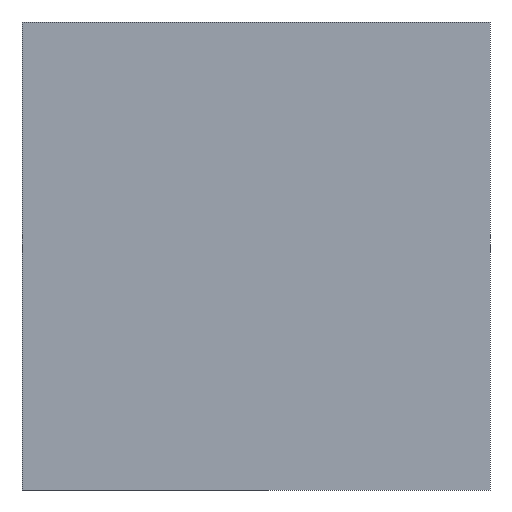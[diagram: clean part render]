
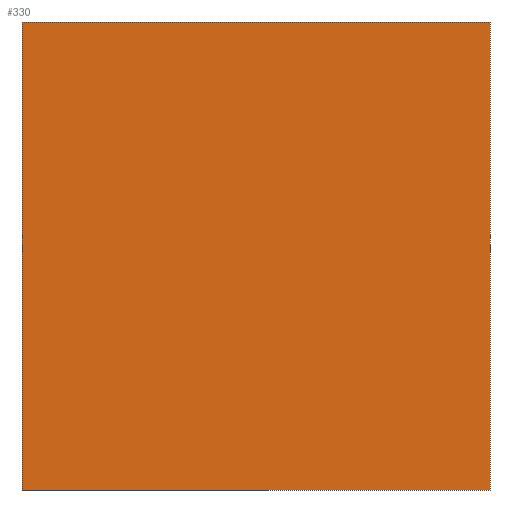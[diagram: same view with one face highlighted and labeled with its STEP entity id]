
A CAD part, left-side view. The second image highlights one B-rep face of the part: STEP entity #330.
In plain terms, the highlighted planar face has unit normal (-1, 0, 0).
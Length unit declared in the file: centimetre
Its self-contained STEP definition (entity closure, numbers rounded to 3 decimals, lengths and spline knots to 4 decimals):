
#9 = CARTESIAN_POINT ( 'NONE',  ( 0., 1000., 1000. ) ) ;
#28 = CARTESIAN_POINT ( 'NONE',  ( 0., 1000., 0. ) ) ;
#32 = VECTOR ( 'NONE', #407, 100. ) ;
#77 = EDGE_CURVE ( 'NONE', #295, #82, #481, .T. ) ;
#81 = CARTESIAN_POINT ( 'NONE',  ( 0., 0., 1000. ) ) ;
#82 = VERTEX_POINT ( 'NONE', #28 ) ;
#96 = DIRECTION ( 'NONE',  ( 0., -1., 0. ) ) ;
#104 = AXIS2_PLACEMENT_3D ( 'NONE', #200, #237, #421 ) ;
#131 = ORIENTED_EDGE ( 'NONE', *, *, #138, .T. ) ;
#138 = EDGE_CURVE ( 'NONE', #82, #271, #440, .T. ) ;
#145 = CARTESIAN_POINT ( 'NONE',  ( 0., 1000., 1000. ) ) ;
#149 = EDGE_CURVE ( 'NONE', #389, #271, #402, .T. ) ;
#152 = CARTESIAN_POINT ( 'NONE',  ( 0., 0., 1000. ) ) ;
#184 = VECTOR ( 'NONE', #96, 100. ) ;
#200 = CARTESIAN_POINT ( 'NONE',  ( 0., 1000., 1000. ) ) ;
#214 = EDGE_LOOP ( 'NONE', ( #131, #343, #493, #417 ) ) ;
#237 = DIRECTION ( 'NONE',  ( 1., 0., 0. ) ) ;
#258 = EDGE_CURVE ( 'NONE', #295, #389, #300, .T. ) ;
#271 = VERTEX_POINT ( 'NONE', #291 ) ;
#291 = CARTESIAN_POINT ( 'NONE',  ( 0., 0., 0. ) ) ;
#295 = VERTEX_POINT ( 'NONE', #9 ) ;
#297 = DIRECTION ( 'NONE',  ( 0., 0., -1. ) ) ;
#300 = LINE ( 'NONE', #458, #438 ) ;
#312 = FACE_OUTER_BOUND ( 'NONE', #214, .T. ) ;
#330 = ADVANCED_FACE ( 'NONE', ( #312 ), #424, .F. ) ;
#343 = ORIENTED_EDGE ( 'NONE', *, *, #149, .F. ) ;
#389 = VERTEX_POINT ( 'NONE', #81 ) ;
#402 = LINE ( 'NONE', #152, #408 ) ;
#407 = DIRECTION ( 'NONE',  ( 0., 0., -1. ) ) ;
#408 = VECTOR ( 'NONE', #297, 100. ) ;
#415 = DIRECTION ( 'NONE',  ( 0., -1., 0. ) ) ;
#417 = ORIENTED_EDGE ( 'NONE', *, *, #77, .T. ) ;
#421 = DIRECTION ( 'NONE',  ( 0., 0., -1. ) ) ;
#424 = PLANE ( 'NONE',  #104 ) ;
#436 = CARTESIAN_POINT ( 'NONE',  ( 0., 1000., 0. ) ) ;
#438 = VECTOR ( 'NONE', #415, 100. ) ;
#440 = LINE ( 'NONE', #436, #184 ) ;
#458 = CARTESIAN_POINT ( 'NONE',  ( 0., 1000., 1000. ) ) ;
#481 = LINE ( 'NONE', #145, #32 ) ;
#493 = ORIENTED_EDGE ( 'NONE', *, *, #258, .F. ) ;
